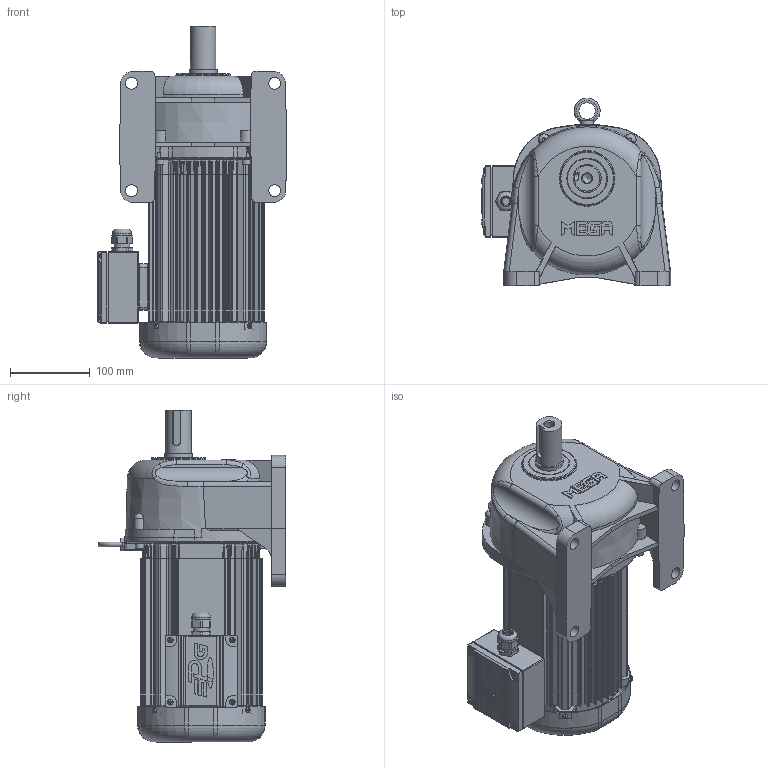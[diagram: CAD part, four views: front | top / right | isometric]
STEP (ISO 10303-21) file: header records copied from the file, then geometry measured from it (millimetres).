
FILE_DESCRIPTION(/* description */ (''),/* implementation_level */ '2;1');
FILE_NAME(/* name */ 'Z:\동력 3D 파일\PML135-(5~100)-PA(B)075[ ]L_(3D).stp',/* time_stamp */ '2021-02-04T17:25:11+09:00',/* author */ ('jaebok'),/* organization */ (''),/* preprocessor_version */ 'ST-DEVELOPER v16.13',/* originating_system */ 'Autodesk Inventor 2018',/* authorisation */ '');
FILE_SCHEMA (('AUTOMOTIVE_DESIGN { 1 0 10303 214 3 1 1 }'));
Length unit declared in the file: millimetre
Products named in the file (1): 부품11
Bounding box: 238 x 236.3 x 417.5 mm (x, y, z)
Volume: 2519895.2 mm3; surface area: 794996.4 mm2
Topology: 1 solids, 32 shells, 3246 faces, 8253 edges, 4926 vertices
Faces by surface type: plane 1031, cylinder 888, bspline 788, torus 303, cone 128, sphere 108
Full cylindrical faces by diameter (mm): 3.25 x1, 3.5 x4, 3.6 x4, 4 x21, 4.917 x4, 5 x15, 5.5 x4, 6 x12, 6.8 x5, 7 x13, 8 x7, 9.5 x4, 10 x5, 12 x1, 12.5 x1, 15 x5, 18 x1, 20 x2, 20.6 x1, 21 x2, 22 x1, 23.6 x1, 25 x1, 28 x1, 30 x1, 32 x2, 35 x5, 36 x1, 40 x1, 42 x2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
Entity records: 123015 total; most frequent: CARTESIAN_POINT 45847, ORIENTED_EDGE 15380, DIRECTION 15354, EDGE_CURVE 7688, AXIS2_PLACEMENT_3D 6331, VERTEX_POINT 4830, EDGE_LOOP 3676, FACE_OUTER_BOUND 3246
